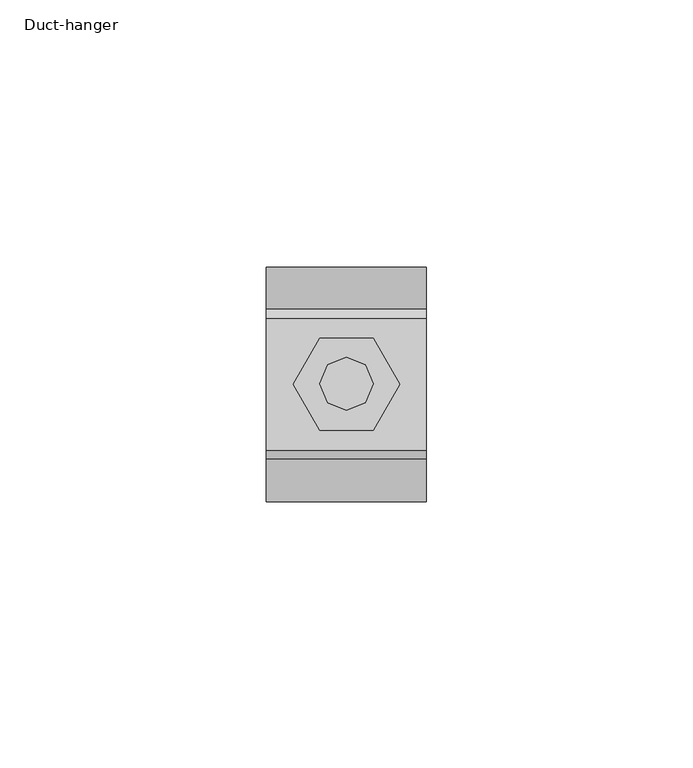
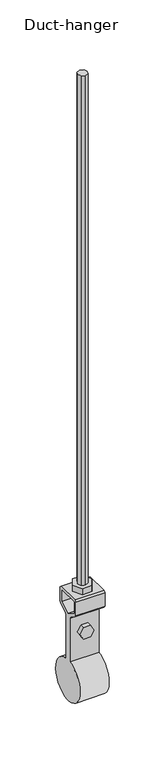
"""IFC4 building model written with IfcOpenShell, lengths in millimetres: proxy geometry, Duct-hanger : Φ44."""

from ifc_helpers import new_model, si_unit, point, frame, frame_2d, origin, place, context, project, spatial, polyline, circle_curve, trimmed, segment, composite_curve, outline, extrude, source, transform, mapped, element, save


def duct_hanger_68520e83(model_context):
    return source(origin(), model_context, "Body", "SweptSolid", [
        extrude(outline(polyline([(3.5351563, 3.5351563), (5.0003052, 0.0), (3.5351563, -3.5351563), (0.0, -5.0), (-3.5354614, -3.5351563), (-5.0, 0.0), (-3.5354614, 3.5351563), (0.0, 5.0), (3.5351563, 3.5351563)])), frame((0.0, 0.0, -563.0603553), z_axis=(0.0, 0.0, 1.0), x_axis=(1.0, 0.0, 0.0)), (0.0, 0.0, 1.0), 563.0603553),
        extrude(outline(polyline([(5.0, 8.659668), (10.0, 0.0), (5.0, -8.659668), (-5.0, -8.659668), (-10.0, 0.0), (-5.0, 8.659668), (5.0, 8.659668)])), frame((0.0, 0.0, -563.0603553), z_axis=(0.0, 0.0, 1.0), x_axis=(1.0, 0.0, 0.0)), (0.0, 0.0, 1.0), 6.6101074),
        extrude(outline(polyline([(-600.0756851, -3.5931396), (-606.2991348, -7.1862793), (-612.5225845, -3.5931396), (-612.5225845, 3.5931396), (-606.2991348, 7.1862793), (-600.0756851, 3.5931396), (-600.0756851, -3.5931396)])), frame((0.0, -8.2446289, 0.0), z_axis=(0.0, 1.0, 0.0), x_axis=(0.0, 0.0, 1.0)), (0.0, 0.0, 1.0), 16.4892578),
        extrude(outline(composite_curve([segment(polyline([(14.0234375, -564.7290565), (14.0234375, -579.3787147), (12.8845215, -581.4450599), (4.6337891, -586.6528846), (3.494873, -588.7198402), (3.494873, -636.2991348)]), True, "CONTINUOUS"), segment(trimmed(circle_curve(frame_2d((0.0, -658.019767)), 22.0), [point((3.494873, -636.2991348))], [point((-3.494873, -636.2991348))], False, "CARTESIAN"), True, "CONTINUOUS"), segment(polyline([(-3.494873, -636.2991348), (-3.494873, -588.7198402), (-4.6337891, -586.6528846), (-12.8845215, -581.4450599), (-14.0234375, -579.3787147), (-14.0234375, -564.7290565), (-12.3547363, -563.0603553), (12.3547363, -563.0603553), (14.0234375, -564.7290565)]), True, "CONTINUOUS")], self_intersect=False), holes=[polyline([(0.0, -585.3267317), (10.7531738, -578.5400917), (10.7531738, -566.3138343), (-10.7531738, -566.3138343), (-10.7531738, -578.5400917), (0.0, -585.3267317)])]), frame((-15.0, 0.0, 0.0), z_axis=(1.0, 0.0, 0.0), x_axis=(0.0, 1.0, 0.0)), (0.0, 0.0, 1.0), 30.0),
    ])


if __name__ == "__main__":
    model = new_model("IFC4")
    model_context = context("Model", 3, world=origin())
    ifc_project = project(units=[si_unit("LENGTHUNIT", "METRE", prefix="MILLI")], contexts=[model_context])
    site = spatial("IfcSite", under=ifc_project)
    building = spatial("IfcBuilding", under=site)
    placement = place(None, origin())
    duct_hanger_shape = duct_hanger_68520e83(model_context)
    element("IfcBuildingElementProxy", 1, Name="Duct-hanger : Φ44", ObjectType="Duct-hanger : Φ44", at=placement, inside=building, context=model_context, shape_type="MappedRepresentation", body=[
        mapped(duct_hanger_shape, transform((0.0, 0.0, 0.0), x_axis=(1.0, 0.0, 0.0), y_axis=(0.0, 1.0, 0.0), z_axis=(0.0, 0.0, 1.0))),
    ])
    save(model, "model.ifc")
